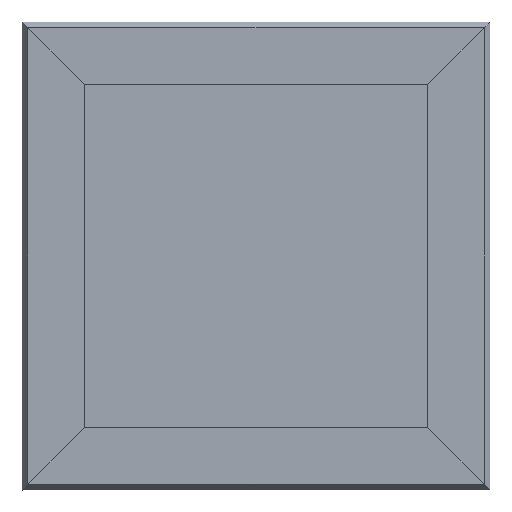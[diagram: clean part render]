
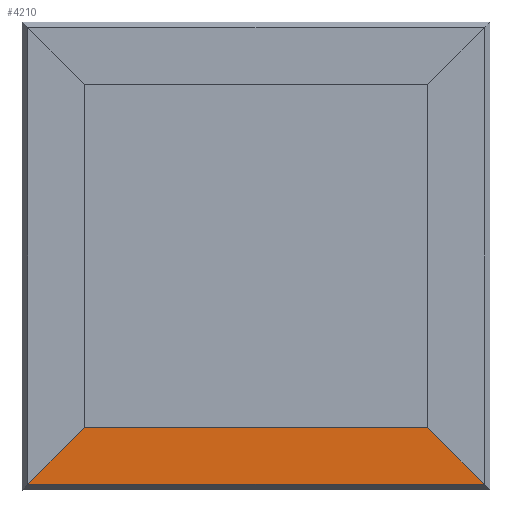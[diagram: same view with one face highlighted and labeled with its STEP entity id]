
A CAD part, front view. The second image highlights one B-rep face of the part: STEP entity #4210.
In plain terms, the highlighted planar face has unit normal (0, -1, 0).
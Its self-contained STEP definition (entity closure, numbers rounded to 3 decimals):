
#74 = CARTESIAN_POINT ( 'NONE',  ( 585.296, 0., -585.296 ) ) ;
#178 = LINE ( 'NONE', #2904, #3685 ) ;
#689 = FACE_OUTER_BOUND ( 'NONE', #3298, .T. ) ;
#931 = CARTESIAN_POINT ( 'NONE',  ( -440., 0., -440. ) ) ;
#1078 = CARTESIAN_POINT ( 'NONE',  ( -600., 0., -440. ) ) ;
#1158 = VERTEX_POINT ( 'NONE', #931 ) ;
#1235 = VERTEX_POINT ( 'NONE', #3434 ) ;
#1411 = DIRECTION ( 'NONE',  ( 0., 0., 1. ) ) ;
#1579 = EDGE_CURVE ( 'NONE', #1158, #4101, #3845, .T. ) ;
#1978 = ORIENTED_EDGE ( 'NONE', *, *, #1579, .F. ) ;
#2153 = EDGE_CURVE ( 'NONE', #1235, #2305, #3866, .T. ) ;
#2179 = LINE ( 'NONE', #2645, #4916 ) ;
#2251 = VECTOR ( 'NONE', #3046, 1000. ) ;
#2259 = DIRECTION ( 'NONE',  ( 0.707, 0., -0.707 ) ) ;
#2305 = VERTEX_POINT ( 'NONE', #74 ) ;
#2489 = DIRECTION ( 'NONE',  ( 0.707, 0., 0.707 ) ) ;
#2519 = AXIS2_PLACEMENT_3D ( 'NONE', #1078, #2649, #1411 ) ;
#2600 = ORIENTED_EDGE ( 'NONE', *, *, #4636, .F. ) ;
#2645 = CARTESIAN_POINT ( 'NONE',  ( -80., 0., 80. ) ) ;
#2649 = DIRECTION ( 'NONE',  ( 0., 1., 0. ) ) ;
#2904 = CARTESIAN_POINT ( 'NONE',  ( -520., 0., -520. ) ) ;
#3046 = DIRECTION ( 'NONE',  ( 1., 0., 0. ) ) ;
#3138 = DIRECTION ( 'NONE',  ( 1., 0., 0. ) ) ;
#3298 = EDGE_LOOP ( 'NONE', ( #4264, #4731, #2600, #1978 ) ) ;
#3394 = CARTESIAN_POINT ( 'NONE',  ( 440., 0., -440. ) ) ;
#3434 = CARTESIAN_POINT ( 'NONE',  ( -585.296, 0., -585.296 ) ) ;
#3685 = VECTOR ( 'NONE', #2489, 1000. ) ;
#3845 = LINE ( 'NONE', #4180, #2251 ) ;
#3866 = LINE ( 'NONE', #4327, #4147 ) ;
#4101 = VERTEX_POINT ( 'NONE', #3394 ) ;
#4147 = VECTOR ( 'NONE', #3138, 1000. ) ;
#4180 = CARTESIAN_POINT ( 'NONE',  ( -600., 0., -440. ) ) ;
#4210 = ADVANCED_FACE ( 'NONE', ( #689 ), #4951, .F. ) ;
#4264 = ORIENTED_EDGE ( 'NONE', *, *, #4422, .F. ) ;
#4327 = CARTESIAN_POINT ( 'NONE',  ( -600., 0., -585.296 ) ) ;
#4422 = EDGE_CURVE ( 'NONE', #1235, #1158, #178, .T. ) ;
#4636 = EDGE_CURVE ( 'NONE', #4101, #2305, #2179, .T. ) ;
#4731 = ORIENTED_EDGE ( 'NONE', *, *, #2153, .T. ) ;
#4916 = VECTOR ( 'NONE', #2259, 1000. ) ;
#4951 = PLANE ( 'NONE',  #2519 ) ;
